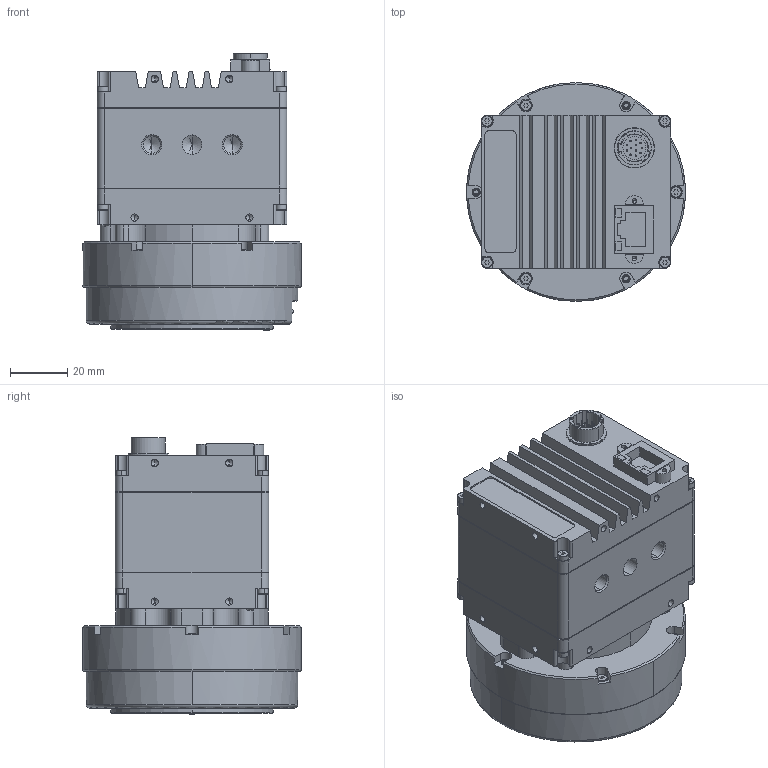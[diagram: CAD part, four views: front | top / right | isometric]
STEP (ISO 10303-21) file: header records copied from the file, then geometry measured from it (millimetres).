
FILE_DESCRIPTION (( 'STEP AP214' ), '1' );
FILE_NAME ('GT4905 PA F-MOUNT.STEP', '2016-01-23T01:01:13', ( '' ), ( '' ), 'SwSTEP 2.0', 'SolidWorks 2015', '' );
FILE_SCHEMA (( 'AUTOMOTIVE_DESIGN' ));
Length unit declared in the file: millimetre
Products named in the file (4): PA NIKON F FRONT ASSY - defeatured; GTLF BODY ASSY - defeatured_GT4905; GTLF PA FRONT ASSY - defeatured; GT4905 PA F-MOUNT
Assembly tree (3 placements, depth 2):
  GT4905 PA F-MOUNT
    GTLF BODY ASSY - defeatured_GT4905
    GTLF PA FRONT ASSY - defeatured
    PA NIKON F FRONT ASSY - defeatured
Bounding box: 76.2 x 76.2 x 96.4 mm (x, y, z)
Volume: 221571.8 mm3; surface area: 59643.3 mm2
Topology: 3 solids, 11 shells, 1106 faces, 2799 edges, 1722 vertices
Faces by surface type: plane 411, cylinder 408, cone 174, bspline 65, sphere 26, torus 22
Entity records: 55450 total; most frequent: CARTESIAN_POINT 24283, DIRECTION 5542, ORIENTED_EDGE 5318, EDGE_CURVE 2659, AXIS2_PLACEMENT_3D 2084, VERTEX_POINT 1698, LINE 1374, VECTOR 1374
